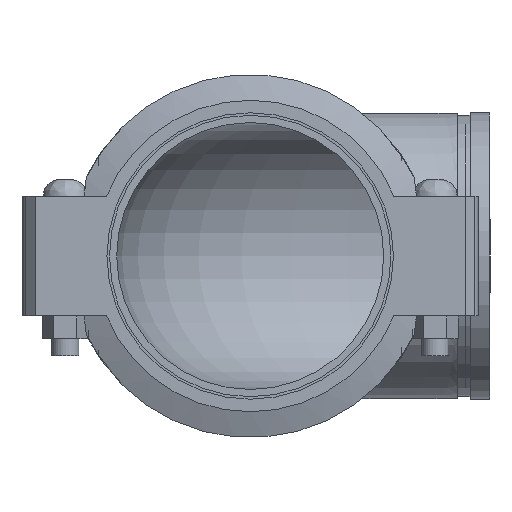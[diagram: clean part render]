
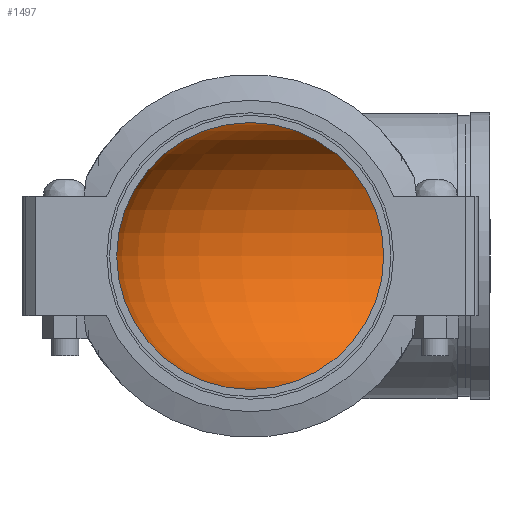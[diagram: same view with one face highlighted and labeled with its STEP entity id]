
A CAD part, left-side view. The second image highlights one B-rep face of the part: STEP entity #1497.
In plain terms, the highlighted toroidal (fillet/blend) face has major radius 205.588 mm and minor radius 127.254 mm.
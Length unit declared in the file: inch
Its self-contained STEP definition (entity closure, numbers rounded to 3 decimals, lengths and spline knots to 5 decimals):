
#48=TOROIDAL_SURFACE('',#1707,8.094,5.01);
#308=FACE_OUTER_BOUND('',#399,.T.);
#399=EDGE_LOOP('',(#973,#974,#975,#976,#977,#978));
#511=CIRCLE('',#1704,5.01);
#512=CIRCLE('',#1705,5.01);
#514=CIRCLE('',#1708,5.01);
#515=CIRCLE('',#1709,3.084);
#516=CIRCLE('',#1710,5.01);
#607=VERTEX_POINT('',#2625);
#608=VERTEX_POINT('',#2626);
#610=VERTEX_POINT('',#2633);
#611=VERTEX_POINT('',#2634);
#753=EDGE_CURVE('',#607,#608,#511,.T.);
#754=EDGE_CURVE('',#608,#607,#512,.T.);
#757=EDGE_CURVE('',#610,#611,#514,.T.);
#758=EDGE_CURVE('',#611,#608,#515,.T.);
#759=EDGE_CURVE('',#611,#610,#516,.T.);
#973=ORIENTED_EDGE('',*,*,#757,.T.);
#974=ORIENTED_EDGE('',*,*,#758,.T.);
#975=ORIENTED_EDGE('',*,*,#753,.F.);
#976=ORIENTED_EDGE('',*,*,#754,.F.);
#977=ORIENTED_EDGE('',*,*,#758,.F.);
#978=ORIENTED_EDGE('',*,*,#759,.T.);
#1497=ADVANCED_FACE('',(#308),#48,.F.);
#1704=AXIS2_PLACEMENT_3D('',#2627,#1909,#1910);
#1705=AXIS2_PLACEMENT_3D('',#2628,#1911,#1912);
#1707=AXIS2_PLACEMENT_3D('',#2632,#1916,#1917);
#1708=AXIS2_PLACEMENT_3D('',#2635,#1918,#1919);
#1709=AXIS2_PLACEMENT_3D('',#2636,#1920,#1921);
#1710=AXIS2_PLACEMENT_3D('',#2637,#1922,#1923);
#1909=DIRECTION('center_axis',(0.,1.,0.));
#1910=DIRECTION('ref_axis',(1.,0.,0.));
#1911=DIRECTION('center_axis',(0.,1.,0.));
#1912=DIRECTION('ref_axis',(1.,0.,0.));
#1916=DIRECTION('center_axis',(0.,0.,1.));
#1917=DIRECTION('ref_axis',(1.,0.,0.));
#1918=DIRECTION('center_axis',(1.,0.,0.));
#1919=DIRECTION('ref_axis',(0.,-1.,0.));
#1920=DIRECTION('center_axis',(0.,0.,1.));
#1921=DIRECTION('ref_axis',(1.,0.,0.));
#1922=DIRECTION('center_axis',(1.,0.,0.));
#1923=DIRECTION('ref_axis',(0.,-1.,0.));
#2625=CARTESIAN_POINT('',(-5.01,-8.094,0.));
#2626=CARTESIAN_POINT('',(5.01,-8.094,0.));
#2627=CARTESIAN_POINT('Origin',(0.,-8.094,
0.));
#2628=CARTESIAN_POINT('Origin',(0.,-8.094,
0.));
#2632=CARTESIAN_POINT('Origin',(8.094,-8.094,0.));
#2633=CARTESIAN_POINT('',(8.094,5.01,0.));
#2634=CARTESIAN_POINT('',(8.094,-5.01,0.));
#2635=CARTESIAN_POINT('Origin',(8.094,0.,0.));
#2636=CARTESIAN_POINT('Origin',(8.094,-8.094,0.));
#2637=CARTESIAN_POINT('Origin',(8.094,0.,0.));
